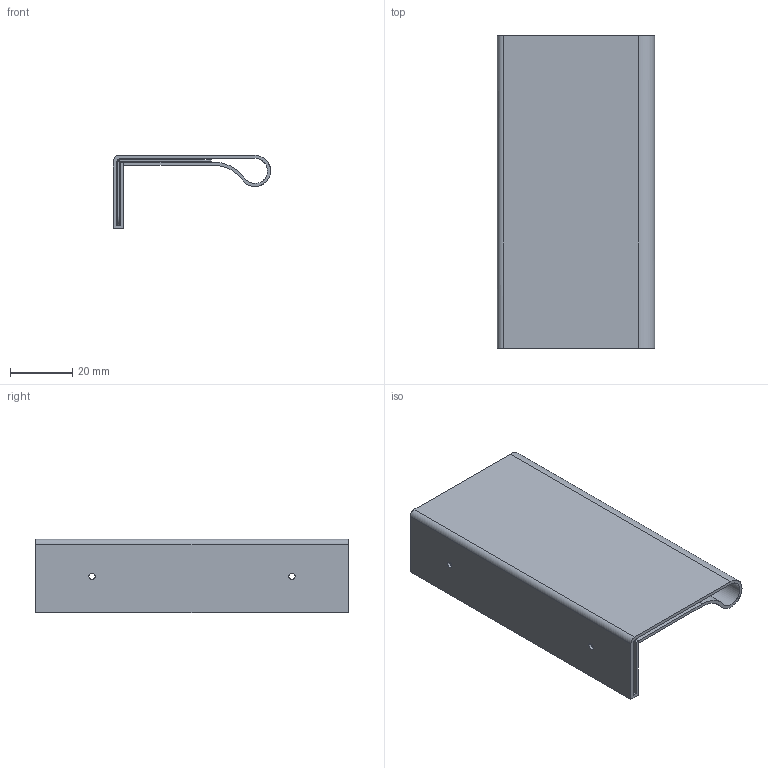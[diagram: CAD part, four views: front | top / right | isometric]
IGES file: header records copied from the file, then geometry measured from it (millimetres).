
Start section: C
Global section: file name: 8283-100.igs; native system: By Siemens PLM Incorporated; preprocessor: XPlus GENERIC/IGES 16.0.42; author: Author; organization: Title; date: 20230831.123531; units: millimetre
Bounding box: 50.3 x 100 x 23.51 mm (x, y, z)
Surface area: 40015.6 mm2 (no closed solid volume)
Topology: 0 solids, 0 shells, 40 faces, 248 edges, 248 vertices
Faces by surface type: bspline 40
